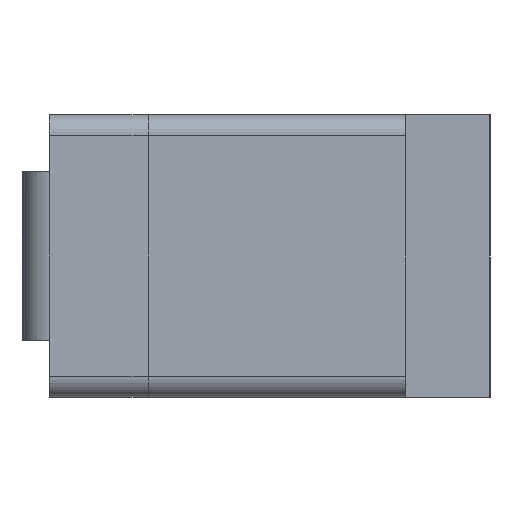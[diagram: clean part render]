
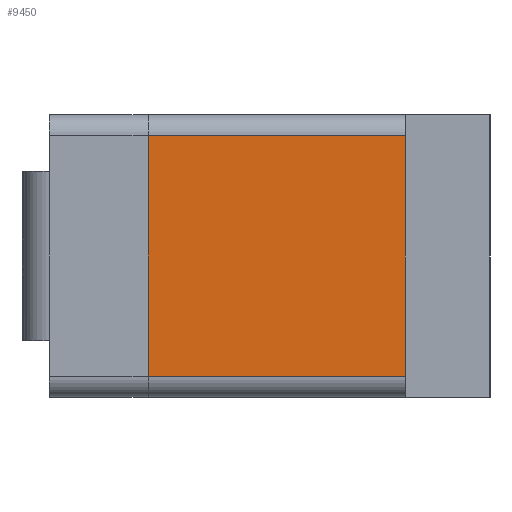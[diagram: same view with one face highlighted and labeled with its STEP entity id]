
A CAD part, left-side view. The second image highlights one B-rep face of the part: STEP entity #9450.
In plain terms, the highlighted planar face has unit normal (-1, 0, 0).
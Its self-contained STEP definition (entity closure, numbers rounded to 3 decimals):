
#269 = ORIENTED_EDGE ( 'NONE', *, *, #1812, .T. ) ;
#280 = LINE ( 'NONE', #3213, #11904 ) ;
#1424 = EDGE_CURVE ( 'NONE', #9980, #7632, #3987, .T. ) ;
#1812 = EDGE_CURVE ( 'NONE', #9980, #9265, #11146, .T. ) ;
#1990 = CARTESIAN_POINT ( 'NONE',  ( -34., 3., -8.5 ) ) ;
#3077 = CARTESIAN_POINT ( 'NONE',  ( -34., 21.2, -10. ) ) ;
#3213 = CARTESIAN_POINT ( 'NONE',  ( -34., 4.2, 8.5 ) ) ;
#3718 = CARTESIAN_POINT ( 'NONE',  ( -34., 21.2, -8.5 ) ) ;
#3887 = DIRECTION ( 'NONE',  ( 0., -1., 0. ) ) ;
#3987 = LINE ( 'NONE', #3077, #6253 ) ;
#4112 = VERTEX_POINT ( 'NONE', #9097 ) ;
#4690 = ORIENTED_EDGE ( 'NONE', *, *, #11536, .T. ) ;
#4825 = VECTOR ( 'NONE', #3887, 1000. ) ;
#5187 = CARTESIAN_POINT ( 'NONE',  ( -34., 21.2, 8.5 ) ) ;
#6253 = VECTOR ( 'NONE', #7488, 1000. ) ;
#6605 = CARTESIAN_POINT ( 'NONE',  ( -34., 4.2, -10. ) ) ;
#7245 = FACE_OUTER_BOUND ( 'NONE', #13243, .T. ) ;
#7488 = DIRECTION ( 'NONE',  ( 0., 0., 1. ) ) ;
#7632 = VERTEX_POINT ( 'NONE', #5187 ) ;
#8508 = CARTESIAN_POINT ( 'NONE',  ( -34., 3., -10. ) ) ;
#9097 = CARTESIAN_POINT ( 'NONE',  ( -34., 3., 8.5 ) ) ;
#9265 = VERTEX_POINT ( 'NONE', #1990 ) ;
#9450 = ADVANCED_FACE ( 'NONE', ( #7245 ), #14650, .F. ) ;
#9848 = DIRECTION ( 'NONE',  ( 0., 1., 0. ) ) ;
#9966 = ORIENTED_EDGE ( 'NONE', *, *, #1424, .F. ) ;
#9980 = VERTEX_POINT ( 'NONE', #3718 ) ;
#10045 = VECTOR ( 'NONE', #12203, 1000. ) ;
#10598 = CARTESIAN_POINT ( 'NONE',  ( -34., 4.2, -8.5 ) ) ;
#11146 = LINE ( 'NONE', #10598, #4825 ) ;
#11536 = EDGE_CURVE ( 'NONE', #9265, #4112, #13072, .T. ) ;
#11860 = DIRECTION ( 'NONE',  ( 1., 0., 0. ) ) ;
#11904 = VECTOR ( 'NONE', #9848, 1000. ) ;
#12203 = DIRECTION ( 'NONE',  ( 0., 0., 1. ) ) ;
#12353 = ORIENTED_EDGE ( 'NONE', *, *, #13008, .T. ) ;
#13008 = EDGE_CURVE ( 'NONE', #4112, #7632, #280, .T. ) ;
#13072 = LINE ( 'NONE', #8508, #10045 ) ;
#13204 = DIRECTION ( 'NONE',  ( 0., 0., -1. ) ) ;
#13243 = EDGE_LOOP ( 'NONE', ( #9966, #269, #4690, #12353 ) ) ;
#13503 = AXIS2_PLACEMENT_3D ( 'NONE', #6605, #11860, #13204 ) ;
#14650 = PLANE ( 'NONE',  #13503 ) ;
